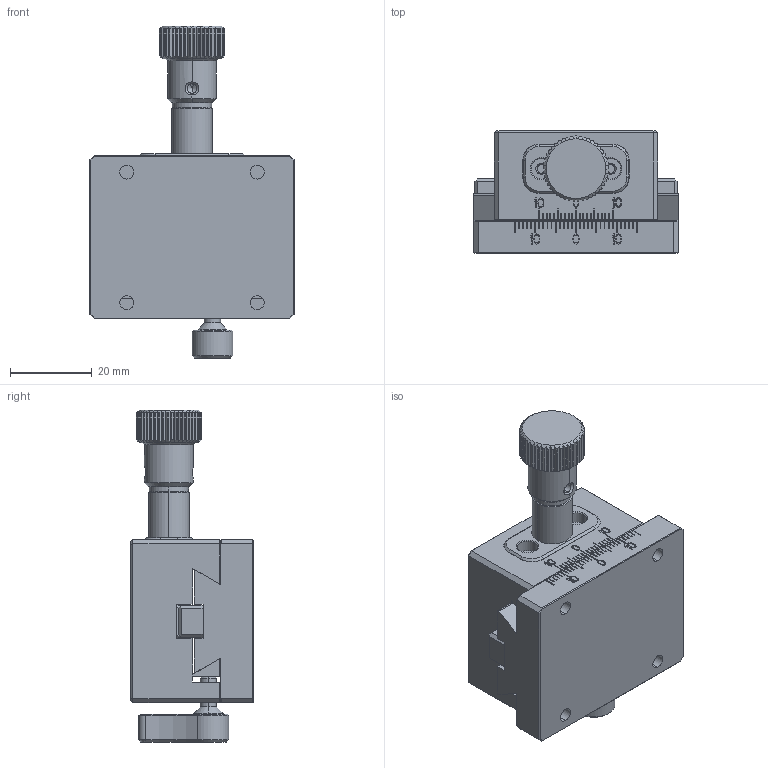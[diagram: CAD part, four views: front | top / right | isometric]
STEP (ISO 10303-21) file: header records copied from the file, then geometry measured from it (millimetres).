
FILE_DESCRIPTION((''),'2;1');
FILE_NAME('ASSY-40-ST20_ASM','2021-12-01T12:46:08',('windows10'),(''),'CREO PARAMETRIC BY PTC INC, 2018260','CREO PARAMETRIC BY PTC INC, 2018260','');
FILE_SCHEMA(('CONFIG_CONTROL_DESIGN'));
Length unit declared in the file: millimetre
Products named in the file (13): BOTTOM-40-50-M; RACK-8-6-50; TOP-40-40-F-NEW; HOLDER-PINION-16D3; PINION-4-41; WHASHER-9D6-4D1-1D2; HANDLE-16-19; ASSY-HANDLE-16-51D8_ASM; ASSY-TOP-40-40-F_ASM; STOPPER-A-NEW; LEVER-NEW; ASSY-STOPPER-NEW_ASM; ASSY-40-ST20_ASM
Assembly tree (12 placements, depth 4):
  ASSY-40-ST20_ASM
    BOTTOM-40-50-M
    RACK-8-6-50
    ASSY-TOP-40-40-F_ASM
      TOP-40-40-F-NEW
      ASSY-HANDLE-16-51D8_ASM
        HOLDER-PINION-16D3
        PINION-4-41
        WHASHER-9D6-4D1-1D2
        HANDLE-16-19
    ASSY-STOPPER-NEW_ASM
      STOPPER-A-NEW
      LEVER-NEW
Bounding box: 50 x 30 x 81.37 mm (x, y, z)
Volume: 54601.4 mm3; surface area: 23497.3 mm2
Topology: 9 solids, 9 shells, 1165 faces, 2994 edges, 1934 vertices
Faces by surface type: plane 840, cylinder 193, cone 122, torus 6, bspline 4
Entity records: 36164 total; most frequent: CARTESIAN_POINT 7497, ORIENTED_EDGE 5976, DIRECTION 5662, EDGE_CURVE 2988, VECTOR 2246, LINE 2246, VERTEX_POINT 1934, AXIS2_PLACEMENT_3D 1708
